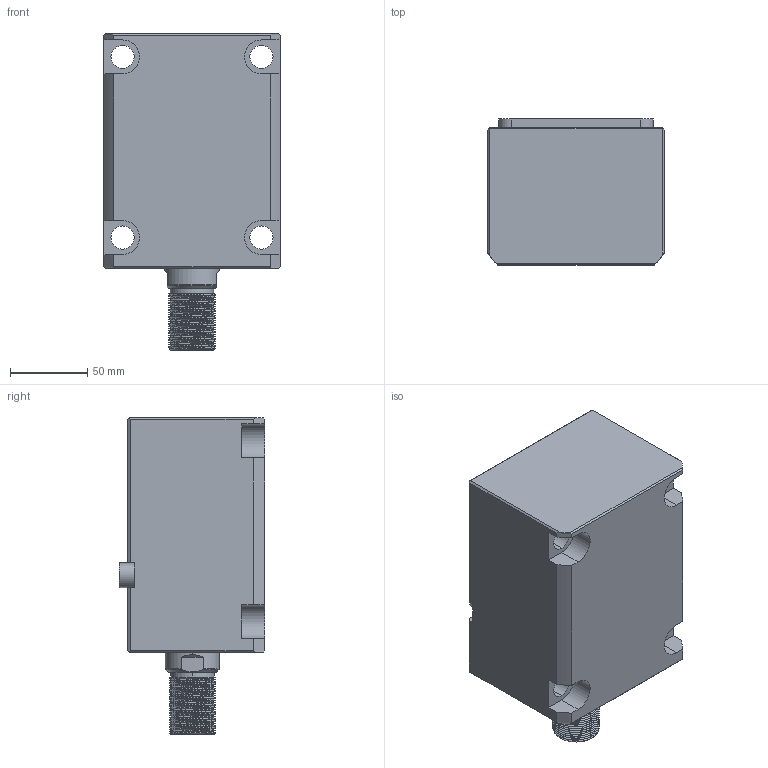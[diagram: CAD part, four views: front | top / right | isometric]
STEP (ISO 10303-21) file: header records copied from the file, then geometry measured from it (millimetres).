
FILE_DESCRIPTION (( 'STEP AP214' ), '1' );
FILE_NAME ('chtb-lam63x85w_asm.STEP', '2018-05-22T03:41:24', ( 'Windows' ), ( 'Microsoft' ), 'SwSTEP 2.0', 'SolidWorks 2015', '' );
FILE_SCHEMA (( 'AUTOMOTIVE_DESIGN' ));
Length unit declared in the file: millimetre
Products named in the file (5): CHTB-LAM63X85NBT; CHTB-LA63PJ; CHTB63X85WHSG; CHTB-63QG; chtb-lam63x85w_asm
Assembly tree (4 placements, depth 2):
  chtb-lam63x85w_asm
    CHTB-63QG
    CHTB63X85WHSG
    CHTB-LA63PJ
    CHTB-LAM63X85NBT
Bounding box: 114 x 94.5 x 205 mm (x, y, z)
Volume: 1319730.5 mm3; surface area: 180617.5 mm2
Topology: 4 solids, 4 shells, 236 faces, 696 edges, 473 vertices
Faces by surface type: cylinder 148, plane 58, bspline 15, cone 9, torus 6
Entity records: 23566 total; most frequent: CARTESIAN_POINT 17780, ORIENTED_EDGE 1384, DIRECTION 946, EDGE_CURVE 692, VERTEX_POINT 473, AXIS2_PLACEMENT_3D 344, EDGE_LOOP 259, VECTOR 258
